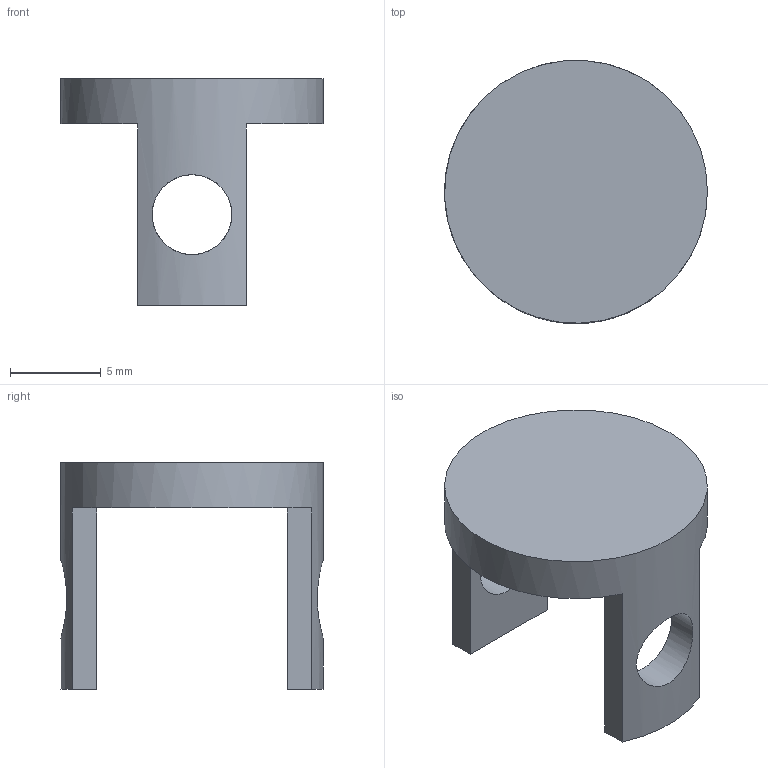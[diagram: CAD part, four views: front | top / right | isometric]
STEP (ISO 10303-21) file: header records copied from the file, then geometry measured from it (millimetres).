
FILE_DESCRIPTION(/* description */ ('STEP AP242','CAx-IF Rec.Pracs.---Representation and Presentation of Product Manufacturing Information (PMI)---4.0---2014-10-13','CAx-IF Rec.Pracs.---3D Tessellated Geometry---0.4---2014-09-14','2;1'),/* implementation_level */ '2;1');
FILE_NAME(/* name */ '6869df28e1723828ff5576f9',/* time_stamp */ '2025-07-06T02:27:53Z',/* author */ (''),/* organization */ (''),/* preprocessor_version */ 'ST-DEVELOPER v20',/* originating_system */ 'ONSHAPE BY PTC INC, 1.200',/* authorisation */ ' ');
FILE_SCHEMA (('AP242_MANAGED_MODEL_BASED_3D_ENGINEERING_MIM_LF { 1 0 10303 442 1 1 4 }'));
Length unit declared in the file: metre
Products named in the file (1): Part 1
Bounding box: 14.5 x 14.5 x 12.5 mm (x, y, z)
Volume: 569.2 mm3; surface area: 731.3 mm2
Topology: 1 solids, 1 shells, 13 faces, 35 edges, 24 vertices
Faces by surface type: plane 10, cylinder 3
Full cylindrical faces by diameter (mm): 4.4 x2, 14.5 x1
Entity records: 416 total; most frequent: CARTESIAN_POINT 84, DIRECTION 62, ORIENTED_EDGE 58, EDGE_CURVE 29, VERTEX_POINT 21, AXIS2_PLACEMENT_3D 21, LINE 20, VECTOR 20
